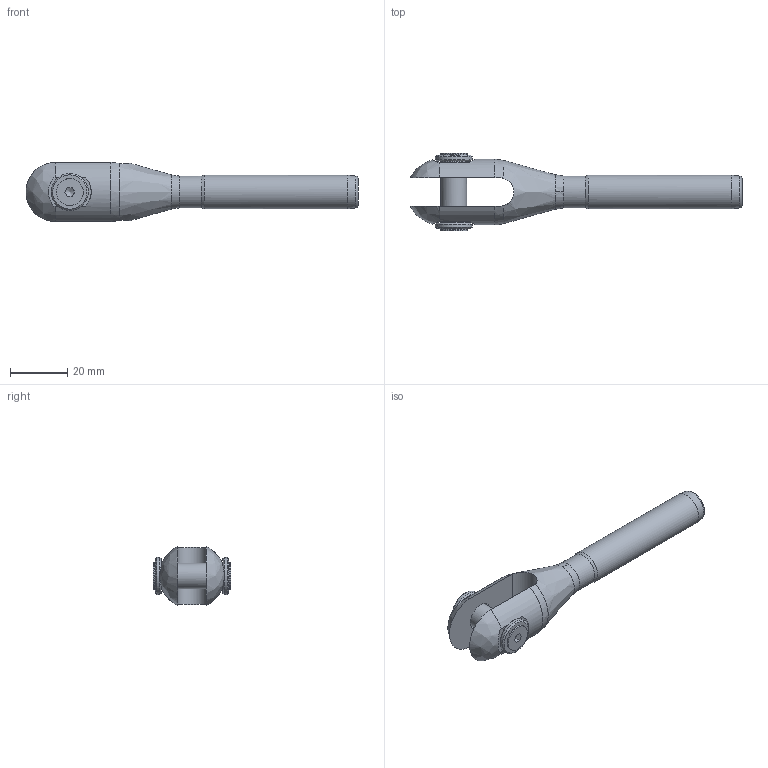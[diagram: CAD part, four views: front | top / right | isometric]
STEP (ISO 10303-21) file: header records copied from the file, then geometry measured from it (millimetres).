
FILE_DESCRIPTION(/* description */ (''),/* implementation_level */ '2;1');
FILE_NAME(/* name */ 'MAC 06_42CrMo4',/* time_stamp */ '2023-05-23T16:55:12+02:00',/* author */ (''),/* organization */ (''),/* preprocessor_version */ 'ST-DEVELOPER v16.5',/* originating_system */ 'Rhino 7.22',/* authorisation */ '');
FILE_SCHEMA (('CONFIG_CONTROL_DESIGN'));
Length unit declared in the file: millimetre
Products named in the file (1): Document
Bounding box: 116.35 x 27.11 x 20.71 mm (x, y, z)
Volume: 17168 mm3; surface area: 8762.8 mm2
Topology: 6 solids, 6 shells, 75 faces, 210 edges, 145 vertices
Faces by surface type: plane 29, bspline 24, cylinder 22
Full cylindrical faces by diameter (mm): 4.134 x2, 5 x2, 5.5 x2, 9 x1, 9.43 x2, 10 x2, 11.2 x1, 11.8 x1, 13 x2
Entity records: 3066 total; most frequent: CARTESIAN_POINT 1723, ORIENTED_EDGE 412, EDGE_CURVE 206, VERTEX_POINT 145, EDGE_LOOP 85, B_SPLINE_CURVE_WITH_KNOTS 80, ADVANCED_FACE 75, FACE_OUTER_BOUND 75
